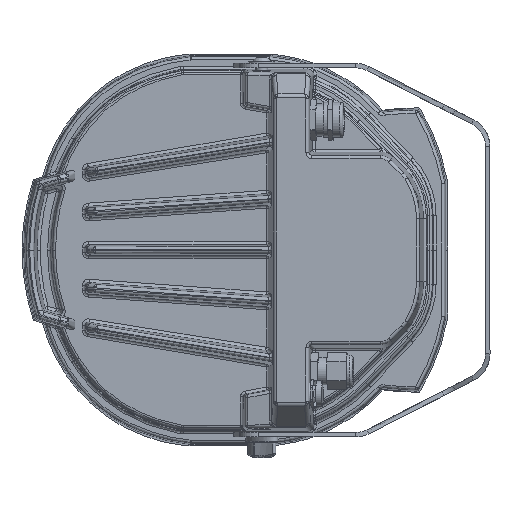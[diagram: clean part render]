
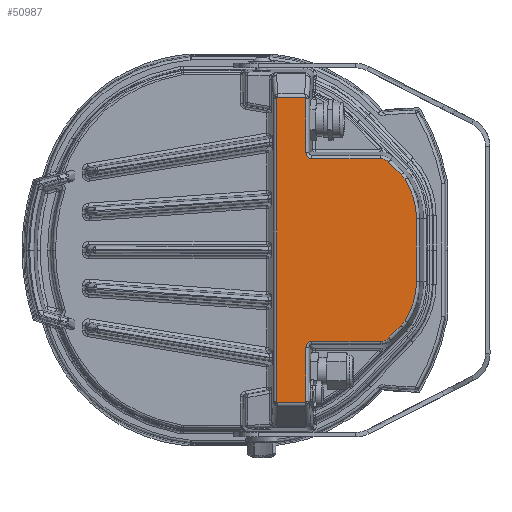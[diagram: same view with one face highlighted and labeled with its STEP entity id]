
A CAD part, left-side view. The second image highlights one B-rep face of the part: STEP entity #50987.
In plain terms, the highlighted planar face has unit normal (-1, 0, 0).
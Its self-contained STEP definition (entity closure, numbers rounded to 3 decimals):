
#335=ELLIPSE('',#53776,7.95,7.937);
#337=ELLIPSE('',#53781,3.979,3.968);
#390=ELLIPSE('',#54232,1.189,0.992);
#391=ELLIPSE('',#54234,1.189,0.992);
#454=ELLIPSE('',#54711,7.95,7.937);
#456=ELLIPSE('',#54716,3.979,3.968);
#486=ELLIPSE('',#55141,1.189,0.992);
#487=ELLIPSE('',#55142,1.189,0.992);
#3440=PLANE('',#55140);
#5823=FACE_OUTER_BOUND('',#8986,.T.);
#8986=EDGE_LOOP('',(#36867,#36868,#36869,#36870,#36871,#36872,#36873,#36874,
#36875,#36876,#36877,#36878,#36879,#36880,#36881,#36882,#36883,#36884,#36885,
#36886,#36887,#36888));
#11698=LINE('',#86220,#14345);
#11700=LINE('',#86291,#14347);
#11857=LINE('',#98734,#14504);
#11867=LINE('',#98932,#14514);
#12085=LINE('',#109957,#14732);
#12087=LINE('',#109974,#14734);
#12089=LINE('',#110045,#14736);
#12224=LINE('',#122236,#14871);
#12225=LINE('',#122238,#14872);
#12226=LINE('',#122241,#14873);
#14345=VECTOR('',#60945,12.066);
#14347=VECTOR('',#60957,45.586);
#14504=VECTOR('',#61980,36.087);
#14514=VECTOR('',#62026,19.385);
#14732=VECTOR('',#63180,42.038);
#14734=VECTOR('',#63202,12.066);
#14736=VECTOR('',#63214,45.586);
#14871=VECTOR('',#64205,202.401);
#14872=VECTOR('',#64206,36.087);
#14873=VECTOR('',#64209,19.385);
#17001=CIRCLE('',#53768,48.493);
#17003=CIRCLE('',#53771,18.73);
#17495=CIRCLE('',#54702,48.493);
#17498=CIRCLE('',#54706,18.73);
#20156=VERTEX_POINT('',#86207);
#20157=VERTEX_POINT('',#86209);
#20158=VERTEX_POINT('',#86213);
#20160=VERTEX_POINT('',#86219);
#20162=VERTEX_POINT('',#86284);
#20164=VERTEX_POINT('',#86290);
#20166=VERTEX_POINT('',#86355);
#20470=VERTEX_POINT('',#98730);
#20480=VERTEX_POINT('',#98928);
#20481=VERTEX_POINT('',#98930);
#20482=VERTEX_POINT('',#99176);
#20860=VERTEX_POINT('',#109956);
#20861=VERTEX_POINT('',#109960);
#20863=VERTEX_POINT('',#109966);
#20865=VERTEX_POINT('',#109972);
#20867=VERTEX_POINT('',#110037);
#20869=VERTEX_POINT('',#110043);
#20871=VERTEX_POINT('',#110108);
#21113=VERTEX_POINT('',#122233);
#21114=VERTEX_POINT('',#122234);
#21115=VERTEX_POINT('',#122237);
#21116=VERTEX_POINT('',#122239);
#25098=EDGE_CURVE('',#20157,#20156,#17001,.T.);
#25100=EDGE_CURVE('',#20158,#20157,#17003,.T.);
#25103=EDGE_CURVE('',#20160,#20158,#11698,.T.);
#25106=EDGE_CURVE('',#20162,#20160,#335,.T.);
#25109=EDGE_CURVE('',#20164,#20162,#11700,.T.);
#25112=EDGE_CURVE('',#20166,#20164,#337,.T.);
#25657=EDGE_CURVE('',#20470,#20166,#11857,.T.);
#25678=EDGE_CURVE('',#20480,#20481,#11867,.T.);
#25680=EDGE_CURVE('',#20481,#20470,#390,.T.);
#25682=EDGE_CURVE('',#20482,#20480,#391,.T.);
#26326=EDGE_CURVE('',#20156,#20860,#12085,.T.);
#26329=EDGE_CURVE('',#20861,#20860,#17495,.T.);
#26332=EDGE_CURVE('',#20863,#20861,#17498,.T.);
#26335=EDGE_CURVE('',#20865,#20863,#12087,.T.);
#26338=EDGE_CURVE('',#20867,#20865,#454,.T.);
#26341=EDGE_CURVE('',#20869,#20867,#12089,.T.);
#26344=EDGE_CURVE('',#20871,#20869,#456,.T.);
#26839=EDGE_CURVE('',#21113,#21114,#486,.T.);
#26840=EDGE_CURVE('',#21113,#20482,#12224,.T.);
#26841=EDGE_CURVE('',#21115,#20871,#12225,.T.);
#26842=EDGE_CURVE('',#21116,#21115,#487,.T.);
#26843=EDGE_CURVE('',#21114,#21116,#12226,.T.);
#36867=ORIENTED_EDGE('',*,*,#26839,.F.);
#36868=ORIENTED_EDGE('',*,*,#26840,.T.);
#36869=ORIENTED_EDGE('',*,*,#25682,.T.);
#36870=ORIENTED_EDGE('',*,*,#25678,.T.);
#36871=ORIENTED_EDGE('',*,*,#25680,.T.);
#36872=ORIENTED_EDGE('',*,*,#25657,.T.);
#36873=ORIENTED_EDGE('',*,*,#25112,.T.);
#36874=ORIENTED_EDGE('',*,*,#25109,.T.);
#36875=ORIENTED_EDGE('',*,*,#25106,.T.);
#36876=ORIENTED_EDGE('',*,*,#25103,.T.);
#36877=ORIENTED_EDGE('',*,*,#25100,.T.);
#36878=ORIENTED_EDGE('',*,*,#25098,.T.);
#36879=ORIENTED_EDGE('',*,*,#26326,.T.);
#36880=ORIENTED_EDGE('',*,*,#26329,.F.);
#36881=ORIENTED_EDGE('',*,*,#26332,.F.);
#36882=ORIENTED_EDGE('',*,*,#26335,.F.);
#36883=ORIENTED_EDGE('',*,*,#26338,.F.);
#36884=ORIENTED_EDGE('',*,*,#26341,.F.);
#36885=ORIENTED_EDGE('',*,*,#26344,.F.);
#36886=ORIENTED_EDGE('',*,*,#26841,.F.);
#36887=ORIENTED_EDGE('',*,*,#26842,.F.);
#36888=ORIENTED_EDGE('',*,*,#26843,.F.);
#50987=ADVANCED_FACE('',(#5823),#3440,.T.);
#53768=AXIS2_PLACEMENT_3D('',#86210,#60931,#60932);
#53771=AXIS2_PLACEMENT_3D('',#86214,#60937,#60938);
#53776=AXIS2_PLACEMENT_3D('',#86285,#60949,#60950);
#53781=AXIS2_PLACEMENT_3D('',#86356,#60961,#60962);
#54232=AXIS2_PLACEMENT_3D('',#99054,#62029,#62030);
#54234=AXIS2_PLACEMENT_3D('',#99177,#62033,#62034);
#54702=AXIS2_PLACEMENT_3D('',#109962,#63187,#63188);
#54706=AXIS2_PLACEMENT_3D('',#109968,#63195,#63196);
#54711=AXIS2_PLACEMENT_3D('',#110039,#63207,#63208);
#54716=AXIS2_PLACEMENT_3D('',#110110,#63219,#63220);
#55140=AXIS2_PLACEMENT_3D('',#122232,#64201,#64202);
#55141=AXIS2_PLACEMENT_3D('',#122235,#64203,#64204);
#55142=AXIS2_PLACEMENT_3D('',#122240,#64207,#64208);
#60931=DIRECTION('center_axis',(-1.,0.,0.));
#60932=DIRECTION('ref_axis',(0.,-0.96,-0.281));
#60937=DIRECTION('center_axis',(-1.,0.,0.));
#60938=DIRECTION('ref_axis',(0.,-0.779,-0.627));
#60945=DIRECTION('',(0.,-0.707,0.707));
#60949=DIRECTION('center_axis',(-1.,0.,0.));
#60950=DIRECTION('ref_axis',(0.,-0.383,-0.924));
#60957=DIRECTION('',(0.,-1.,0.));
#60961=DIRECTION('center_axis',(1.,0.,0.));
#60962=DIRECTION('ref_axis',(0.,0.707,0.707));
#61980=DIRECTION('',(0.,0.,1.));
#62026=DIRECTION('',(0.,-1.,0.));
#62029=DIRECTION('center_axis',(-1.,0.,0.));
#62030=DIRECTION('ref_axis',(0.,-0.079,
-0.997));
#62033=DIRECTION('center_axis',(-1.,0.,0.));
#62034=DIRECTION('ref_axis',(0.,0.079,-0.997));
#63180=DIRECTION('',(0.,0.,1.));
#63187=DIRECTION('center_axis',(1.,0.,0.));
#63188=DIRECTION('ref_axis',(0.,-0.96,0.281));
#63195=DIRECTION('center_axis',(1.,0.,0.));
#63196=DIRECTION('ref_axis',(0.,-0.779,0.627));
#63202=DIRECTION('',(0.,-0.707,-0.707));
#63207=DIRECTION('center_axis',(1.,0.,0.));
#63208=DIRECTION('ref_axis',(0.,-0.383,0.924));
#63214=DIRECTION('',(0.,-1.,0.));
#63219=DIRECTION('center_axis',(-1.,0.,0.));
#63220=DIRECTION('ref_axis',(0.,0.707,-0.707));
#64201=DIRECTION('center_axis',(-1.,0.,0.));
#64202=DIRECTION('ref_axis',(0.,0.,
1.));
#64203=DIRECTION('center_axis',(1.,0.,0.));
#64204=DIRECTION('ref_axis',(0.,0.079,0.997));
#64205=DIRECTION('',(0.,0.,-1.));
#64206=DIRECTION('',(0.,0.,-1.));
#64207=DIRECTION('center_axis',(1.,0.,0.));
#64208=DIRECTION('ref_axis',(0.,-0.079,
0.997));
#64209=DIRECTION('',(0.,-1.,0.));
#86207=CARTESIAN_POINT('',(-38.812,-96.708,-142.821));
#86209=CARTESIAN_POINT('',(-38.812,-89.069,-168.945));
#86210=CARTESIAN_POINT('Origin',(-38.812,-48.215,-142.821));
#86213=CARTESIAN_POINT('',(-38.812,-86.533,-172.1));
#86214=CARTESIAN_POINT('Origin',(-38.812,-73.29,-158.855));
#86219=CARTESIAN_POINT('',(-38.812,-78.001,-180.631));
#86220=CARTESIAN_POINT('',(-38.812,-78.001,-180.631));
#86284=CARTESIAN_POINT('',(-38.812,-72.397,-182.952));
#86285=CARTESIAN_POINT('Origin',(-38.812,-72.387,-175.005));
#86290=CARTESIAN_POINT('',(-38.812,-26.811,-182.952));
#86291=CARTESIAN_POINT('',(-38.812,-26.811,-182.952));
#86355=CARTESIAN_POINT('',(-38.812,-22.848,-186.915));
#86356=CARTESIAN_POINT('Origin',(-38.812,-26.822,-186.926));
#98730=CARTESIAN_POINT('',(-38.812,-22.848,-223.002));
#98734=CARTESIAN_POINT('',(-38.812,-22.848,-223.002));
#98928=CARTESIAN_POINT('',(-38.812,-3.315,-223.621));
#98930=CARTESIAN_POINT('',(-38.812,-22.7,-223.621));
#98932=CARTESIAN_POINT('',(-38.812,-3.315,-223.621));
#99054=CARTESIAN_POINT('Origin',(-38.812,-21.854,-222.968));
#99176=CARTESIAN_POINT('',(-38.812,-3.167,-223.002));
#99177=CARTESIAN_POINT('Origin',(-38.812,-4.16,-222.968));
#109956=CARTESIAN_POINT('',(-38.812,-96.708,-100.783));
#109957=CARTESIAN_POINT('',(-38.812,-96.708,-142.821));
#109960=CARTESIAN_POINT('',(-38.812,-89.069,-74.659));
#109962=CARTESIAN_POINT('Origin',(-38.812,-48.215,-100.783));
#109966=CARTESIAN_POINT('',(-38.812,-86.533,-71.504));
#109968=CARTESIAN_POINT('Origin',(-38.812,-73.29,-84.749));
#109972=CARTESIAN_POINT('',(-38.812,-78.001,-62.973));
#109974=CARTESIAN_POINT('',(-38.812,-78.001,-62.973));
#110037=CARTESIAN_POINT('',(-38.812,-72.397,-60.652));
#110039=CARTESIAN_POINT('Origin',(-38.812,-72.387,-68.599));
#110043=CARTESIAN_POINT('',(-38.812,-26.811,-60.652));
#110045=CARTESIAN_POINT('',(-38.812,-26.811,-60.652));
#110108=CARTESIAN_POINT('',(-38.812,-22.848,-56.689));
#110110=CARTESIAN_POINT('Origin',(-38.812,-26.822,-56.678));
#122232=CARTESIAN_POINT('Origin',(-38.812,-37.251,-121.86));
#122233=CARTESIAN_POINT('',(-38.812,-3.167,-20.602));
#122234=CARTESIAN_POINT('',(-38.812,-3.315,-19.983));
#122235=CARTESIAN_POINT('Origin',(-38.812,-4.16,-20.636));
#122236=CARTESIAN_POINT('',(-38.812,-3.167,-20.602));
#122237=CARTESIAN_POINT('',(-38.812,-22.848,-20.602));
#122238=CARTESIAN_POINT('',(-38.812,-22.848,-20.602));
#122239=CARTESIAN_POINT('',(-38.812,-22.7,-19.983));
#122240=CARTESIAN_POINT('Origin',(-38.812,-21.854,-20.636));
#122241=CARTESIAN_POINT('',(-38.812,-3.315,-19.983));
